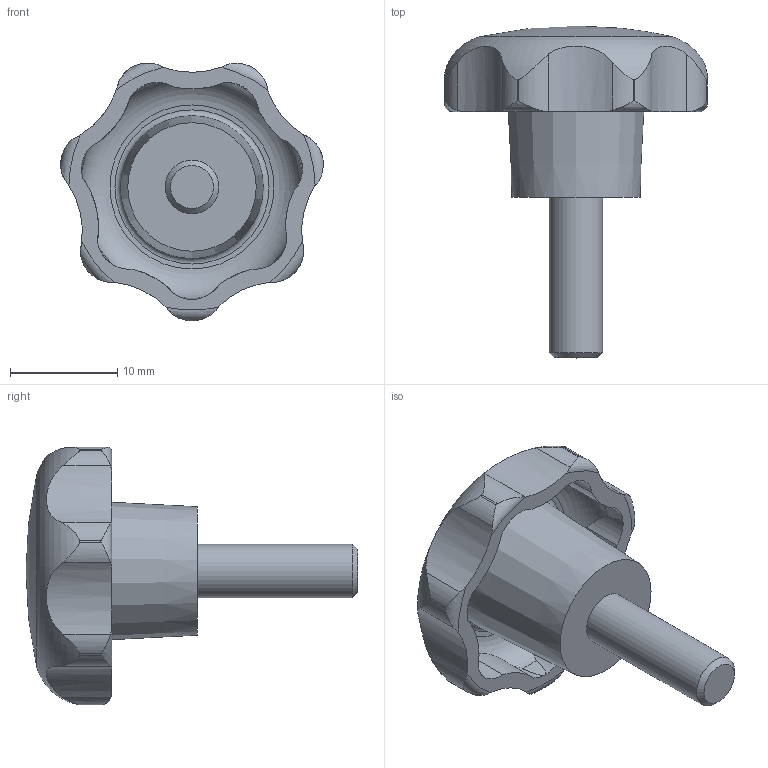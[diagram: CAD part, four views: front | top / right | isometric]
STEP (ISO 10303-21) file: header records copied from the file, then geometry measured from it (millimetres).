
FILE_DESCRIPTION( ( 'STEP AP203' ), '1' );
FILE_NAME( 'C:/Temp/Ganter_Step_05_03_2020/data/2_2/gn_6336_4/gn_6336_4_st/Star knob GN 6336.4-ST-25-M5-15.stp', '2020-03-05T12:07:13', ( 'License CC BY-ND 4.0' ), ( 'CADENAS' ), ' ', 'PARTsolutions', ' ' );
FILE_SCHEMA( ( 'CONFIG_CONTROL_DESIGN' ) );
Length unit declared in the file: millimetre
Products named in the file (1): _Star knob GN 6336.4-ST-25-M5-15
Bounding box: 24.52 x 31 x 24.06 mm (x, y, z)
Volume: 3421.3 mm3; surface area: 2250.9 mm2
Topology: 1 solids, 1 shells, 74 faces, 209 edges, 138 vertices
Faces by surface type: cylinder 50, torus 10, cone 10, plane 3, sphere 1
Full cylindrical faces by diameter (mm): 5 x1
Entity records: 3129 total; most frequent: CARTESIAN_POINT 1317, ORIENTED_EDGE 394, DIRECTION 336, EDGE_CURVE 197, AXIS2_PLACEMENT_3D 147, VERTEX_POINT 135, EDGE_LOOP 83, B_SPLINE_CURVE_WITH_KNOTS 83
